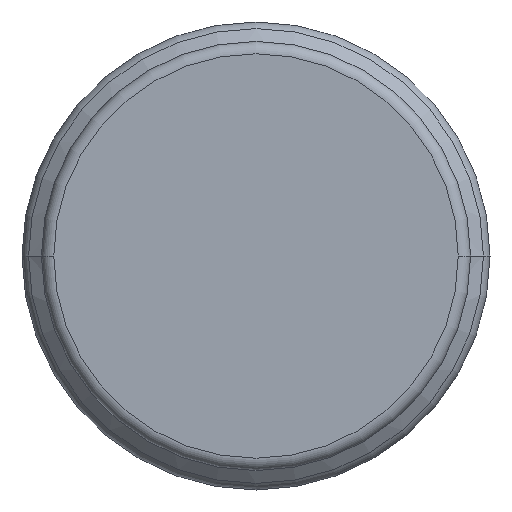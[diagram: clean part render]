
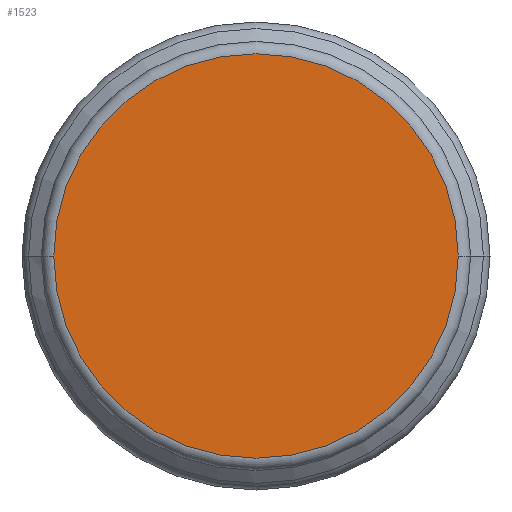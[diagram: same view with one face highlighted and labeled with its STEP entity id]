
A CAD part, front view. The second image highlights one B-rep face of the part: STEP entity #1523.
In plain terms, the highlighted planar face has unit normal (0, -1, 0).
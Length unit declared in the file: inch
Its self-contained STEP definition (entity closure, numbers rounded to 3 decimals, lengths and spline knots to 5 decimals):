
#90 = AXIS2_PLACEMENT_3D ( 'NONE', #648, #662, #663 ) ;
#122 = ORIENTED_EDGE ( 'NONE', *, *, #542, .T. ) ;
#201 = EDGE_LOOP ( 'NONE', ( #258, #122 ) ) ;
#258 = ORIENTED_EDGE ( 'NONE', *, *, #909, .T. ) ;
#461 = DIRECTION ( 'NONE',  ( 1., 0., 0. ) ) ;
#463 = DIRECTION ( 'NONE',  ( 0., -1., 0. ) ) ;
#464 = CARTESIAN_POINT ( 'NONE',  ( -0.04851, -0.474, 0.20016 ) ) ;
#542 = EDGE_CURVE ( 'NONE', #571, #574, #1394, .T. ) ;
#571 = VERTEX_POINT ( 'NONE', #1211 ) ;
#574 = VERTEX_POINT ( 'NONE', #1208 ) ;
#648 = CARTESIAN_POINT ( 'NONE',  ( -0.04851, -0.474, 0.20016 ) ) ;
#659 = FACE_OUTER_BOUND ( 'NONE', #201, .T. ) ;
#660 = PLANE ( 'NONE',  #90 ) ;
#662 = DIRECTION ( 'NONE',  ( 0., 1., 0. ) ) ;
#663 = DIRECTION ( 'NONE',  ( 1., 0., 0. ) ) ;
#909 = EDGE_CURVE ( 'NONE', #574, #571, #1399, .T. ) ;
#1152 = DIRECTION ( 'NONE',  ( 1., 0., 0. ) ) ;
#1153 = DIRECTION ( 'NONE',  ( 0., -1., 0. ) ) ;
#1154 = CARTESIAN_POINT ( 'NONE',  ( -0.04851, -0.474, 0.20016 ) ) ;
#1208 = CARTESIAN_POINT ( 'NONE',  ( 0.11549, -0.474, 0.20016 ) ) ;
#1211 = CARTESIAN_POINT ( 'NONE',  ( -0.21251, -0.474, 0.20016 ) ) ;
#1310 = AXIS2_PLACEMENT_3D ( 'NONE', #464, #463, #461 ) ;
#1353 = AXIS2_PLACEMENT_3D ( 'NONE', #1154, #1153, #1152 ) ;
#1394 = CIRCLE ( 'NONE', #1310, 0.164 ) ;
#1399 = CIRCLE ( 'NONE', #1353, 0.164 ) ;
#1523 = ADVANCED_FACE ( 'NONE', ( #659 ), #660, .F. ) ;
